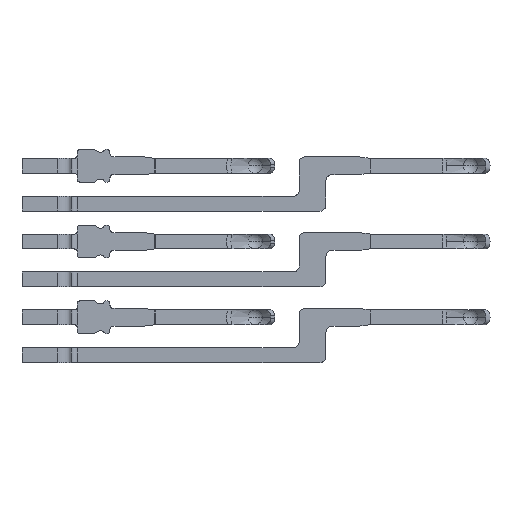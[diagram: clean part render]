
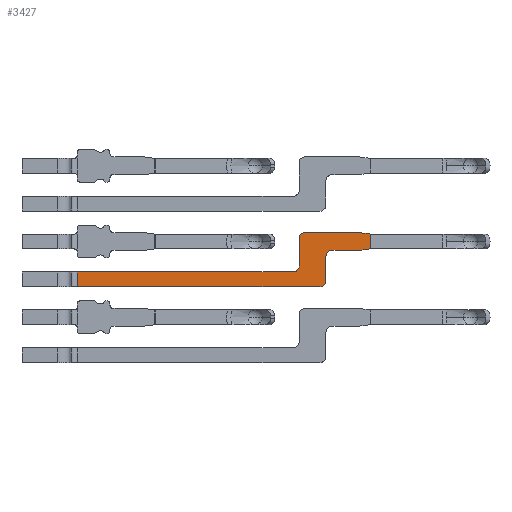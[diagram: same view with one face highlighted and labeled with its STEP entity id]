
A CAD part, left-side view. The second image highlights one B-rep face of the part: STEP entity #3427.
In plain terms, the highlighted planar face has unit normal (-1, 0, 0).
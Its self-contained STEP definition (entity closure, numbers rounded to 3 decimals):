
#2296=DIRECTION('',(0.,0.,1.));
#2297=VECTOR('',#2296,0.5);
#2298=CARTESIAN_POINT('',(-0.2,-0.982,-0.25));
#2299=LINE('',#2298,#2297);
#2576=DIRECTION('',(0.,1.,0.));
#2577=VECTOR('',#2576,1.8);
#2578=CARTESIAN_POINT('',(-0.2,-0.6,0.3));
#2579=LINE('',#2578,#2577);
#2580=CARTESIAN_POINT('',(-0.2,1.2,0.1));
#2581=DIRECTION('',(1.,0.,0.));
#2582=DIRECTION('',(0.,1.,0.));
#2583=AXIS2_PLACEMENT_3D('',#2580,#2581,#2582);
#2585=DIRECTION('',(0.,-0.992,-0.13));
#2586=VECTOR('',#2585,0.385);
#2587=CARTESIAN_POINT('',(-0.2,-0.6,0.3));
#2588=LINE('',#2587,#2586);
#2589=DIRECTION('',(0.,0.991,-0.137));
#2590=VECTOR('',#2589,0.365);
#2591=CARTESIAN_POINT('',(-0.2,-0.961,-0.25));
#2592=LINE('',#2591,#2590);
#2593=CARTESIAN_POINT('',(-0.2,0.3,-0.5));
#2594=DIRECTION('',(-1.,0.,0.));
#2595=DIRECTION('',(0.,0.,1.));
#2596=AXIS2_PLACEMENT_3D('',#2593,#2594,#2595);
#2598=CARTESIAN_POINT('',(-0.2,0.7,-1.32));
#2599=DIRECTION('',(1.,0.,0.));
#2600=DIRECTION('',(0.,-1.,0.));
#2601=AXIS2_PLACEMENT_3D('',#2598,#2599,#2600);
#2603=DIRECTION('',(0.,1.,0.));
#2604=VECTOR('',#2603,7.24);
#2605=CARTESIAN_POINT('',(-0.2,1.6,-1.52));
#2606=LINE('',#2605,#2604);
#2607=DIRECTION('',(0.,-1.,0.));
#2608=VECTOR('',#2607,7.24);
#2609=CARTESIAN_POINT('',(-0.2,8.84,-1.02));
#2610=LINE('',#2609,#2608);
#2611=CARTESIAN_POINT('',(-0.2,1.6,-0.82));
#2612=DIRECTION('',(-1.,0.,0.));
#2613=DIRECTION('',(0.,0.,-1.));
#2614=AXIS2_PLACEMENT_3D('',#2611,#2612,#2613);
#2616=DIRECTION('',(0.,0.,1.));
#2617=VECTOR('',#2616,0.92);
#2618=CARTESIAN_POINT('',(-0.2,1.4,-0.82));
#2619=LINE('',#2618,#2617);
#2620=DIRECTION('',(0.,-1.,0.));
#2621=VECTOR('',#2620,0.021);
#2622=CARTESIAN_POINT('',(-0.2,-0.961,-0.25));
#2623=LINE('',#2622,#2621);
#2632=DIRECTION('',(0.,-1.,0.));
#2633=VECTOR('',#2632,0.9);
#2634=CARTESIAN_POINT('',(-0.2,0.3,-0.3));
#2635=LINE('',#2634,#2633);
#2648=DIRECTION('',(0.,0.,1.));
#2649=VECTOR('',#2648,0.82);
#2650=CARTESIAN_POINT('',(-0.2,0.5,-1.32));
#2651=LINE('',#2650,#2649);
#2660=DIRECTION('',(0.,-1.,0.));
#2661=VECTOR('',#2660,0.9);
#2662=CARTESIAN_POINT('',(-0.2,1.6,-1.52));
#2663=LINE('',#2662,#2661);
#2716=DIRECTION('',(0.,0.,-1.));
#2717=VECTOR('',#2716,0.5);
#2718=CARTESIAN_POINT('',(-0.2,8.84,-1.02));
#2719=LINE('',#2718,#2717);
#2871=CARTESIAN_POINT('',(-0.2,-0.982,0.25));
#2872=VERTEX_POINT('',#2871);
#2890=CARTESIAN_POINT('',(-0.2,-0.982,-0.25));
#2891=VERTEX_POINT('',#2890);
#2894=CARTESIAN_POINT('',(-0.2,-0.961,-0.25));
#2895=VERTEX_POINT('',#2894);
#2922=CARTESIAN_POINT('',(-0.2,1.2,0.3));
#2923=VERTEX_POINT('',#2922);
#2924=CARTESIAN_POINT('',(-0.2,1.4,0.1));
#2925=VERTEX_POINT('',#2924);
#2926=CARTESIAN_POINT('',(-0.2,-0.6,0.3));
#2927=VERTEX_POINT('',#2926);
#2928=CARTESIAN_POINT('',(-0.2,-0.6,-0.3));
#2929=VERTEX_POINT('',#2928);
#2930=CARTESIAN_POINT('',(-0.2,0.3,-0.3));
#2931=VERTEX_POINT('',#2930);
#2932=CARTESIAN_POINT('',(-0.2,0.5,-0.5));
#2933=VERTEX_POINT('',#2932);
#2934=CARTESIAN_POINT('',(-0.2,0.5,-1.32));
#2935=VERTEX_POINT('',#2934);
#2936=CARTESIAN_POINT('',(-0.2,0.7,-1.52));
#2937=VERTEX_POINT('',#2936);
#2938=CARTESIAN_POINT('',(-0.2,1.6,-1.52));
#2939=VERTEX_POINT('',#2938);
#2940=CARTESIAN_POINT('',(-0.2,8.84,-1.52));
#2941=VERTEX_POINT('',#2940);
#2942=CARTESIAN_POINT('',(-0.2,8.84,-1.02));
#2943=VERTEX_POINT('',#2942);
#2944=CARTESIAN_POINT('',(-0.2,1.6,-1.02));
#2945=VERTEX_POINT('',#2944);
#2946=CARTESIAN_POINT('',(-0.2,1.4,-0.82));
#2947=VERTEX_POINT('',#2946);
#3392=CARTESIAN_POINT('',(-0.2,0.,-1.5));
#3393=DIRECTION('',(1.,0.,0.));
#3394=DIRECTION('',(0.,-1.,0.));
#3395=AXIS2_PLACEMENT_3D('',#3392,#3393,#3394);
#3396=PLANE('',#3395);
#3397=ORIENTED_EDGE('',*,*,#3371,.T.);
#3398=ORIENTED_EDGE('',*,*,#3387,.F.);
#3399=ORIENTED_EDGE('',*,*,#3319,.T.);
#3400=ORIENTED_EDGE('',*,*,#3127,.F.);
#3402=ORIENTED_EDGE('',*,*,#3401,.F.);
#3404=ORIENTED_EDGE('',*,*,#3403,.T.);
#3406=ORIENTED_EDGE('',*,*,#3405,.F.);
#3408=ORIENTED_EDGE('',*,*,#3407,.T.);
#3410=ORIENTED_EDGE('',*,*,#3409,.F.);
#3412=ORIENTED_EDGE('',*,*,#3411,.T.);
#3414=ORIENTED_EDGE('',*,*,#3413,.F.);
#3416=ORIENTED_EDGE('',*,*,#3415,.T.);
#3418=ORIENTED_EDGE('',*,*,#3417,.F.);
#3420=ORIENTED_EDGE('',*,*,#3419,.T.);
#3422=ORIENTED_EDGE('',*,*,#3421,.T.);
#3424=ORIENTED_EDGE('',*,*,#3423,.T.);
#3425=EDGE_LOOP('',(#3397,#3398,#3399,#3400,#3402,#3404,#3406,#3408,#3410,#3412,
#3414,#3416,#3418,#3420,#3422,#3424));
#3426=FACE_OUTER_BOUND('',#3425,.F.);
#3427=ADVANCED_FACE('',(#3426),#3396,.F.);
#2584=CIRCLE('',#2583,0.2);
#2597=CIRCLE('',#2596,0.2);
#2602=CIRCLE('',#2601,0.2);
#2615=CIRCLE('',#2614,0.2);
#3127=EDGE_CURVE('',#2891,#2872,#2299,.T.);
#3319=EDGE_CURVE('',#2927,#2872,#2588,.T.);
#3371=EDGE_CURVE('',#2925,#2923,#2584,.T.);
#3387=EDGE_CURVE('',#2927,#2923,#2579,.T.);
#3401=EDGE_CURVE('',#2895,#2891,#2623,.T.);
#3403=EDGE_CURVE('',#2895,#2929,#2592,.T.);
#3405=EDGE_CURVE('',#2931,#2929,#2635,.T.);
#3407=EDGE_CURVE('',#2931,#2933,#2597,.T.);
#3409=EDGE_CURVE('',#2935,#2933,#2651,.T.);
#3411=EDGE_CURVE('',#2935,#2937,#2602,.T.);
#3413=EDGE_CURVE('',#2939,#2937,#2663,.T.);
#3415=EDGE_CURVE('',#2939,#2941,#2606,.T.);
#3417=EDGE_CURVE('',#2943,#2941,#2719,.T.);
#3419=EDGE_CURVE('',#2943,#2945,#2610,.T.);
#3421=EDGE_CURVE('',#2945,#2947,#2615,.T.);
#3423=EDGE_CURVE('',#2947,#2925,#2619,.T.);
